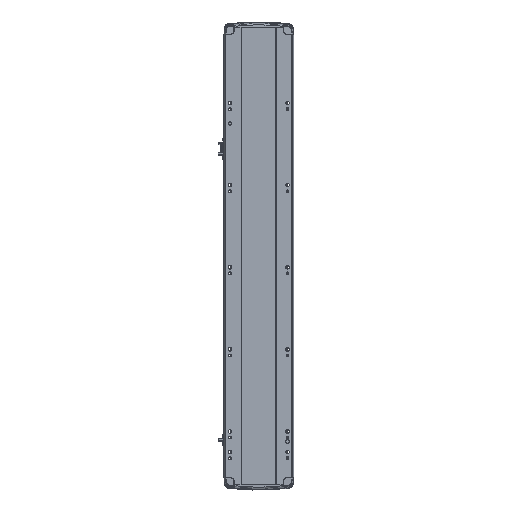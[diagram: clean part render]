
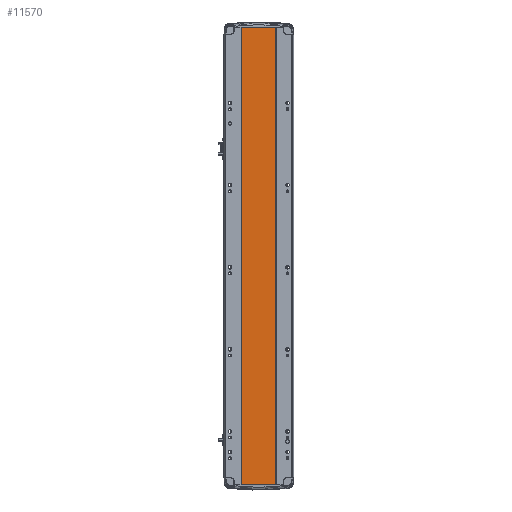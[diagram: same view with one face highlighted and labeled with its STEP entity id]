
A CAD part, front view. The second image highlights one B-rep face of the part: STEP entity #11570.
In plain terms, the highlighted planar face has unit normal (0, -1, 0).
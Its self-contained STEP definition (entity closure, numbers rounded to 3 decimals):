
#150 = DIRECTION ( 'NONE',  ( -1., 0., 0. ) ) ;
#2864 = EDGE_CURVE ( 'NONE', #31577, #13683, #11658, .T. ) ;
#4494 = VECTOR ( 'NONE', #40076, 1000. ) ;
#6520 = LINE ( 'NONE', #36836, #4494 ) ;
#8520 = VECTOR ( 'NONE', #19981, 1000. ) ;
#10852 = CARTESIAN_POINT ( 'NONE',  ( 41.793, 0.998, 0. ) ) ;
#11085 = DIRECTION ( 'NONE',  ( 1., 0., 0. ) ) ;
#11570 = ADVANCED_FACE ( 'NONE', ( #19856 ), #16180, .F. ) ;
#11658 = LINE ( 'NONE', #20568, #13642 ) ;
#11835 = VERTEX_POINT ( 'NONE', #10852 ) ;
#13642 = VECTOR ( 'NONE', #24177, 1000. ) ;
#13683 = VERTEX_POINT ( 'NONE', #15199 ) ;
#15199 = CARTESIAN_POINT ( 'NONE',  ( 41.793, 0.998, 1114.5 ) ) ;
#16180 = PLANE ( 'NONE',  #24181 ) ;
#19856 = FACE_OUTER_BOUND ( 'NONE', #32872, .T. ) ;
#19981 = DIRECTION ( 'NONE',  ( 0., 0., -1. ) ) ;
#20568 = CARTESIAN_POINT ( 'NONE',  ( 0., 0.999, 1114.5 ) ) ;
#20632 = CARTESIAN_POINT ( 'NONE',  ( 0., 0.999, 0. ) ) ;
#20814 = EDGE_CURVE ( 'NONE', #35732, #11835, #36171, .T. ) ;
#21646 = ORIENTED_EDGE ( 'NONE', *, *, #2864, .F. ) ;
#22501 = CARTESIAN_POINT ( 'NONE',  ( 0., 0.999, 1114.5 ) ) ;
#23499 = ORIENTED_EDGE ( 'NONE', *, *, #31973, .F. ) ;
#24177 = DIRECTION ( 'NONE',  ( 1., 0., 0. ) ) ;
#24181 = AXIS2_PLACEMENT_3D ( 'NONE', #22501, #31863, #150 ) ;
#26728 = CARTESIAN_POINT ( 'NONE',  ( -41.791, 1., 0. ) ) ;
#31577 = VERTEX_POINT ( 'NONE', #39989 ) ;
#31863 = DIRECTION ( 'NONE',  ( 0., 1., 0. ) ) ;
#31973 = EDGE_CURVE ( 'NONE', #13683, #11835, #6520, .T. ) ;
#32518 = LINE ( 'NONE', #39138, #8520 ) ;
#32872 = EDGE_LOOP ( 'NONE', ( #39755, #23499, #21646, #39802 ) ) ;
#35732 = VERTEX_POINT ( 'NONE', #26728 ) ;
#36171 = LINE ( 'NONE', #20632, #37694 ) ;
#36836 = CARTESIAN_POINT ( 'NONE',  ( 41.793, 0.998, 1114.5 ) ) ;
#37694 = VECTOR ( 'NONE', #11085, 1000. ) ;
#39138 = CARTESIAN_POINT ( 'NONE',  ( -41.791, 1., 1114.5 ) ) ;
#39573 = EDGE_CURVE ( 'NONE', #31577, #35732, #32518, .T. ) ;
#39755 = ORIENTED_EDGE ( 'NONE', *, *, #20814, .T. ) ;
#39802 = ORIENTED_EDGE ( 'NONE', *, *, #39573, .T. ) ;
#39989 = CARTESIAN_POINT ( 'NONE',  ( -41.791, 1., 1114.5 ) ) ;
#40076 = DIRECTION ( 'NONE',  ( 0., 0., -1. ) ) ;
